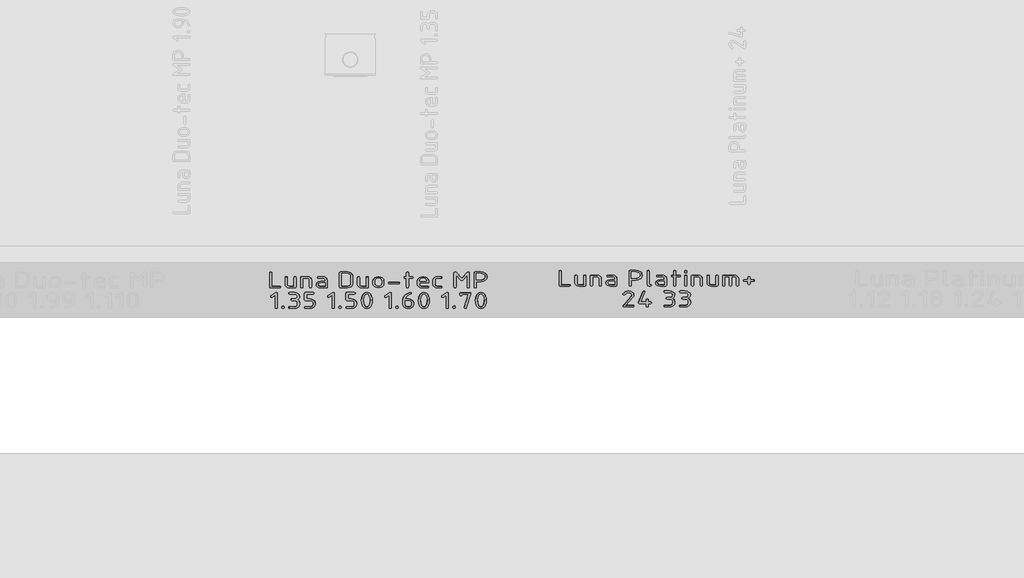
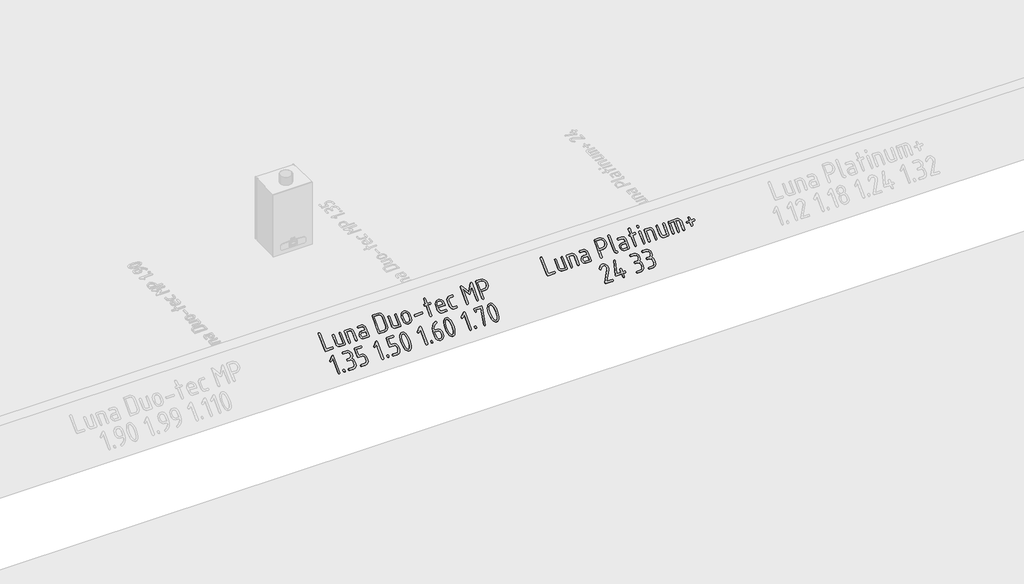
# One storey, part 16 of 37: 2 proxies.
"""IFC4 building model written with IfcOpenShell, lengths in millimetres."""

from ifc_helpers import new_model, si_unit, frame, origin, place, context, project, spatial, polyline, outline, extrude, element, save

model = new_model("IFC4")

# Units and contexts
model_context = context("Model", 3, world=origin())
ifc_project = project(units=[si_unit("LENGTHUNIT", "METRE", prefix="MILLI")], contexts=[model_context])

# Site, building, storey
site = spatial("IfcSite", under=ifc_project)
building = spatial("IfcBuilding", under=site)
storey = spatial("IfcBuildingStorey", under=building, Name="01_Стартовый вид_Площадка", Elevation=0.0)

# Proxies
placement = place(None, origin())
element("IfcBuildingElementProxy", 1, Name="200мм", ObjectType="200мм", at=placement, inside=storey, context=model_context, shape_type="SweptSolid", body=[
    extrude(outline(polyline([(181.0073918, 0.0), (188.5582446, -2.5569025), (191.0751955, -10.2276101), (188.5715617, -17.8983177), (181.0606606, -20.4552203), (10.3874165, -20.4552203), (10.3874165, -90.4504271), (7.830514, -97.9613283), (0.1598064, -100.464962), (-7.5109012, -97.9613283), (-10.0678037, -90.4504271), (-10.0678037, -10.2276101), (-7.5508528, -2.5569025), (0.0, 0.0), (181.0073918, 0.0)])), frame((11525.7291081, -4989.2448204, 178.1825168), z_axis=(0.0, -0.7071067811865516, 0.7071067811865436), x_axis=(0.0, 0.7071067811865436, 0.7071067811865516)), (0.0, 0.0, 1.0), 10.0),
    extrude(outline(polyline([(7.8963814, 0.0), (121.2937942, -38.8098098), (127.5601636, -43.5725011), (127.5101016, -51.4095223), (111.5032112, -98.1796553), (103.8057301, -111.7461768), (91.4765408, -120.9968587), (76.5112491, -124.9537749), (60.9054607, -122.6389988), (-24.1173995, -93.5402659), (-30.3578956, -88.7019763), (-30.230214, -80.6381603), (-25.39024, -74.1871075), (-17.4938586, -74.1871075), (67.1762097, -103.1650988), (82.2515299, -102.3002329), (92.2362967, -91.3041202), (104.7416799, -54.7649538), (1.2728405, -19.3531585), (-4.9676556, -14.5148688), (-4.8399741, -6.4510528), (0.0, 0.0), (7.8963814, 0.0)])), frame((11761.816442, -4899.2872485, 268.1400887), z_axis=(0.0, -0.7071067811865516, 0.7071067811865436), x_axis=(0.32380687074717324, -0.6690101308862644, -0.6690101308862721)), (0.0, 0.0, 1.0), 10.0),
    extrude(outline(polyline([(7.8963814, 0.0), (121.2937942, -38.8098097), (127.5601636, -43.5725011), (127.5101016, -51.4095222), (111.5032112, -98.1796552), (103.8057301, -111.7461767), (91.4765408, -120.9968587), (76.5112491, -124.9537748), (60.9054607, -122.6389988), (-24.1173995, -93.5402659), (-30.3578956, -88.7019762), (-30.230214, -80.6381602), (-25.39024, -74.1871074), (-17.4938586, -74.1871074), (67.1762097, -103.1650987), (82.3596044, -102.4779764), (92.2362968, -91.3041201), (104.7416799, -54.7649537), (1.2728405, -19.3531584), (-4.9676556, -14.5148688), (-4.8399741, -6.4510528), (0.0, 0.0), (7.8963814, 0.0)])), frame((11807.8406876, -4994.602913, 172.8244242), z_axis=(0.0, -0.7071067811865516, 0.7071067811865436), x_axis=(-0.32380687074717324, 0.6690101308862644, 0.6690101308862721)), (0.0, 0.0, 1.0), 10.0),
    extrude(outline(polyline([(50.232481, 0.0), (65.7203854, -2.9630772), (78.6247529, -11.8523086), (87.3342021, -25.0429959), (90.2373519, -40.9104406), (84.9104716, -61.5254672), (70.5678465, -76.7470276), (50.232481, -81.8208811), (10.2276101, -81.8208811), (10.2276101, -100.5714997), (15.9806408, -113.9153347), (30.2034112, -119.3221182), (70.208282, -119.3221182), (77.7191832, -121.8790207), (80.222817, -129.5497283), (77.7191832, -137.2204359), (70.208282, -139.7773385), (30.2034112, -139.7773385), (14.628945, -136.8875059), (1.5714297, -128.2180083), (-7.2778502, -115.3402752), (-10.2276101, -99.8257364), (-10.2276101, -9.9612662), (-7.6707076, -2.4903165), (0.0, 0.0), (50.232481, 0.0)]), holes=[polyline([(10.2276101, -61.3656608), (50.232481, -61.3656608), (57.9231644, -59.8741343), (64.3753481, -55.3995549), (68.7500486, -48.7942233), (70.208282, -40.9104406), (64.2954449, -26.5012294), (57.8232854, -21.9667225), (50.232481, -20.4552203), (10.2276101, -20.4552203), (10.2276101, -61.3656608)])]), frame((12033.7004113, -4996.3638327, 171.0635045), z_axis=(0.0, -0.7071067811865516, 0.7071067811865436), x_axis=(-1.0, 0.0, 0.0)), (0.0, 0.0, 1.0), 10.0),
    extrude(outline(polyline([(7.8835354, 0.0), (54.9822837, -15.8674928), (75.3551696, -27.452775), (89.3245981, -46.3241218), (95.3595377, -69.2676231), (91.9289574, -93.0693684), (80.1317631, -115.1766267), (62.1553062, -129.8058846), (40.1087195, -135.8689668), (16.101136, -132.2776977), (-21.3557464, -119.6585341), (-43.2607096, -184.678028), (-48.0307567, -190.8280684), (-56.082337, -190.701191), (-62.5480184, -185.866963), (-62.5603687, -177.8949509), (-4.7707219, -6.3606027), (0.0, 0.0), (7.8835354, 0.0)]), holes=[polyline([(11.2976149, -22.7350648), (-14.8250741, -100.2738403), (22.3289224, -112.7909621), (37.6683221, -114.832067), (52.4892795, -110.4450816), (64.7838936, -100.6679697), (72.5442635, -86.5386961), (74.9157895, -70.5939297), (71.0438718, -55.3703394), (61.898987, -42.9093), (48.4516115, -35.2521866), (11.2976149, -22.7350648)])]), frame((12155.512846, -4855.914007, 311.5133302), z_axis=(0.0, -0.7071067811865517, 0.7071067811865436), x_axis=(0.947664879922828, 0.22575570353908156, 0.2257557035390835)), (0.0, 0.0, 1.0), 10.0),
    extrude(outline(polyline([(160.9250532, 0.0), (168.4759059, -2.5569026), (170.9928568, -10.2276102), (168.4759059, -17.8983178), (160.9250532, -20.4552203), (0.0, -20.4552203), (-6.365622, -22.9521954), (-10.014535, -30.4431208), (-13.6767652, -37.9340462), (-20.0823387, -40.4310213), (-27.6331915, -37.9407048), (-30.1501424, -30.4697552), (-28.1525623, -18.1713204), (-22.159822, -8.4431053), (-12.6247063, -2.1107763), (0.0, 0.0), (160.9250532, 0.0)])), frame((12313.2550882, -4975.0444625, 192.3828746), z_axis=(0.0, -0.7071067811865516, 0.7071067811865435), x_axis=(0.0, 0.7071067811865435, 0.7071067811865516)), (0.0, 0.0, 1.0), 10.0),
    extrude(outline(polyline([(50.232481, 0.0), (65.7203854, -2.9630772), (78.6247529, -11.8523086), (87.3342021, -25.0429959), (90.2373519, -40.9104406), (84.9104716, -61.5254672), (70.5678464, -76.7470276), (50.232481, -81.8208811), (10.2276101, -81.8208811), (10.2276101, -100.5714997), (15.9806408, -113.9153347), (30.2034111, -119.3221182), (70.208282, -119.3221182), (77.7191832, -121.8790207), (80.2228169, -129.5497283), (77.7191832, -137.2204359), (70.208282, -139.7773385), (30.2034111, -139.7773385), (14.6289449, -136.8875059), (1.5714297, -128.2180083), (-7.2778502, -115.3402752), (-10.2276102, -99.8257364), (-10.2276102, -9.9612662), (-7.6707076, -2.4903165), (0.0, 0.0), (50.232481, 0.0)]), holes=[polyline([(10.2276101, -61.3656608), (50.232481, -61.3656608), (57.9231644, -59.8741343), (64.3753481, -55.3995549), (68.7500486, -48.7942233), (70.208282, -40.9104406), (64.2954449, -26.5012294), (57.8232854, -21.9667225), (50.232481, -20.4552203), (10.2276101, -20.4552203), (10.2276101, -61.3656608)])]), frame((12480.3060537, -4996.3638327, 171.0635045), z_axis=(0.0, -0.7071067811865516, 0.7071067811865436), x_axis=(-1.0, 0.0, 0.0)), (0.0, 0.0, 1.0), 10.0),
    extrude(outline(polyline([(109.3608521, 0.0), (109.3608521, 10.0145349), (111.9177546, 17.5254361), (119.5884622, 20.0290698), (127.2591698, 17.5254361), (129.8160723, 10.0145349), (129.8160723, 0.0), (180.954123, 0.0), (188.6248306, -2.5569026), (191.1817331, -10.2276102), (188.6248306, -17.8983178), (180.954123, -20.4552203), (129.8160723, -20.4552203), (129.8160723, -50.4988251), (127.2591698, -57.9697747), (119.5884622, -60.4600912), (111.9177546, -57.9697747), (109.3608521, -50.4988251), (109.3608521, -20.4552203), (0.0, -20.4552203), (-7.4709496, -17.8983178), (-9.9612662, -10.2276102), (-7.4709496, -2.5569026), (0.0, 0.0), (109.3608521, 0.0)])), frame((12551.8993246, -4989.3201538, 178.1071833), z_axis=(0.0, -0.7071067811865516, 0.7071067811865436), x_axis=(0.0, 0.7071067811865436, 0.7071067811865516)), (0.0, 0.0, 1.0), 10.0),
    extrude(outline(polyline([(-40.4252129, 16.4627758), (-34.1768363, 11.6346677), (-34.2913697, 3.5706542), (-39.1208191, -2.8882816), (-47.0171899, -2.9011565), (-160.6290117, 35.7752084), (-166.9152084, 40.6161914), (-166.8132817, 48.6844966), (-161.9712257, 55.1391407), (-154.0370347, 55.1391406), (-40.4252129, 16.4627758)])), frame((12653.3231251, -4873.6079542, 293.819383), z_axis=(0.0, -0.7071067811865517, 0.7071067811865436), x_axis=(-0.32226379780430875, 0.6693825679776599, 0.6693825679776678)), (0.0, 0.0, 1.0), 10.0),
    extrude(outline(polyline([(7.934191, 0.0), (17.4144495, -3.2273221), (23.7006463, -8.0683051), (23.5987196, -16.1366103), (18.7566636, -22.5912544), (10.8224726, -22.5912544), (1.3422141, -19.3639323), (-4.9439827, -14.5229493), (-4.842056, -6.4546441), (0.0, 0.0), (7.934191, 0.0)])), frame((12653.3231251, -4873.6079542, 293.819383), z_axis=(0.0, -0.7071067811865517, 0.7071067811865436), x_axis=(-0.32226379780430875, 0.6693825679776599, 0.6693825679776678)), (0.0, 0.0, 1.0), 10.0),
    extrude(outline(polyline([(7.8963814, 0.0), (121.2937942, -38.8098098), (127.5601636, -43.5725011), (127.5101016, -51.4095223), (111.5032112, -98.1796553), (103.8057301, -111.7461768), (91.4765408, -120.9968587), (76.5112491, -124.9537749), (60.9054607, -122.6389988), (-24.1173995, -93.5402659), (-30.3578956, -88.7019763), (-30.230214, -80.6381603), (-25.39024, -74.1871075), (-17.4938586, -74.1871074), (67.1762097, -103.1650987), (82.3596044, -102.4779765), (92.2362968, -91.3041201), (104.7416799, -54.7649537), (1.2728405, -19.3531584), (-4.9676556, -14.5148688), (-4.8399741, -6.4510528), (0.0, 0.0), (7.8963814, 0.0)])), frame((12714.6887859, -4994.602913, 172.8244242), z_axis=(0.0, -0.7071067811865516, 0.7071067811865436), x_axis=(-0.32380687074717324, 0.6690101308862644, 0.6690101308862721)), (0.0, 0.0, 1.0), 10.0),
    extrude(outline(polyline([(7.8963814, 0.0), (121.2937942, -38.8098097), (127.5601636, -43.5725011), (127.5101016, -51.4095222), (111.5032112, -98.1796552), (103.8057301, -111.7461767), (91.4765408, -120.9968587), (76.5112491, -124.9537748), (60.9054607, -122.6389988), (-24.1173995, -93.5402659), (-30.3578956, -88.7019762), (-30.230214, -80.6381602), (-25.39024, -74.1871074), (-17.4938586, -74.1871074), (67.1762097, -103.1650987), (82.2515299, -102.3002329), (92.2362968, -91.3041201), (104.7416799, -54.7649537), (1.2728405, -19.3531584), (-4.9676556, -14.5148688), (-4.8399741, -6.4510528), (0.0, 0.0), (7.8963814, 0.0)])), frame((12948.2192172, -4899.2872485, 268.1400887), z_axis=(0.0, -0.7071067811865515, 0.7071067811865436), x_axis=(0.32380687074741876, -0.669010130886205, -0.6690101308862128)), (0.0, 0.0, 1.0), 10.0),
    extrude(outline(polyline([(8.0648268, 0.0), (95.6150095, -28.42341), (109.8146858, -36.0716859), (119.6837275, -48.3906321), (124.1620709, -63.3839268), (122.1896523, -79.0552479), (94.4406404, -164.5281404), (89.7017561, -170.8444538), (81.6369293, -170.8444538), (75.110059, -166.1072188), (74.9850443, -158.2118271), (102.6189151, -73.0935939), (103.610512, -65.2736839), (101.3875032, -57.8242882), (96.4501456, -51.7058984), (89.2986962, -47.8790062), (69.8431001, -41.5626929), (36.073852, -145.5792004), (31.3349676, -151.8955138), (23.2701408, -151.8955138), (16.7432705, -147.1582788), (16.6182558, -139.2628871), (50.3875039, -35.2463795), (11.4763116, -22.6137528), (-22.2929365, -126.6302604), (-27.0318209, -132.9465738), (-35.0966477, -132.9465738), (-41.623518, -128.2093388), (-41.7485327, -120.3139471), (-4.7388843, -6.3163134), (0.0, 0.0), (8.0648268, 0.0)])), frame((12994.2434628, -4899.2872485, 268.1400887), z_axis=(0.0, -0.7071067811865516, 0.7071067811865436), x_axis=(0.9511311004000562, 0.21834563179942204, 0.2183456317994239)), (0.0, 0.0, 1.0), 10.0),
    extrude(outline(polyline([(30.6828304, 0.0), (30.6828304, 29.990336), (33.2397329, 37.5012371), (40.9104405, 40.0048709), (48.5811482, 37.5012371), (51.1380507, 29.990336), (51.1380507, 0.0), (79.2639785, 0.0), (86.2954605, -2.5569025), (88.6392878, -10.2276101), (86.2954605, -17.8983177), (79.2639785, -20.4552203), (51.1380507, -20.4552203), (51.1380507, -50.4455562), (48.5811482, -57.9564574), (40.9104405, -60.4600911), (33.2397329, -57.9564574), (30.6828304, -50.4455562), (30.6828304, -20.4552203), (0.0, -20.4552203), (-7.6707076, -17.8983177), (-10.2276102, -10.2276101), (-7.6707076, -2.5569025), (0.0, 0.0), (30.6828304, 0.0)])), frame((13216.6939832, -4974.6677952, 192.7595419), z_axis=(0.0, -0.7071067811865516, 0.7071067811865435), x_axis=(0.0, 0.7071067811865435, 0.7071067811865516)), (0.0, 0.0, 1.0), 10.0),
    extrude(outline(polyline([(14.6692355, -1e-07), (33.1062034, -6.6022306), (47.3681923, -19.9776427), (55.6930957, -37.6934159), (56.3188068, -57.3167297), (51.840737, -71.1866426), (42.8424616, -84.4831553), (-35.1387131, -175.0883818), (26.2241518, -184.7023202), (33.2487615, -188.3909847), (34.5349086, -196.3567718), (30.8741352, -203.5475071), (23.0579834, -204.9110167), (-55.9874908, -192.526681), (-63.0203458, -188.8906433), (-64.3312285, -181.0827367), (-61.7484405, -175.6102614), (28.9539759, -70.2294251), (36.4734081, -54.5849109), (36.0907364, -42.8313549), (31.0839534, -32.2000358), (22.5293125, -24.1671007), (11.5030671, -20.2086965), (-5.5868318, -23.8935588), (-23.3858749, -40.1921121), (-32.6617347, -43.6454248), (-39.6945896, -40.0093871), (-41.0054723, -32.2014805), (-39.423307, -28.2976301), (-27.0462713, -14.148815), (-13.9051689, -4.7162717), (0.0, 0.0), (14.6692355, -1e-07)])), frame((12131.8182167, -5040.5532294, 126.8741077), z_axis=(0.0, -0.7071067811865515, 0.7071067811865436), x_axis=(0.9879481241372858, 0.10944976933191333, 0.10944976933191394)), (0.0, 0.0, 1.0), 10.0),
    extrude(outline(polyline([(7.917185, 0.0), (10.3934109, -1.1623101), (130.7514683, -83.450499), (134.8406101, -88.4913876), (134.6089903, -94.955685), (129.8713131, -101.2936442), (121.9920295, -101.306278), (119.4147332, -99.9418269), (10.4776363, -25.3349921), (-4.3291842, -69.7554535), (24.1726819, -79.2560755), (30.4516834, -84.0442879), (30.3885144, -92.1088673), (25.600302, -98.5984323), (17.7041733, -98.6616014), (-10.7976928, -89.1609793), (-17.1314408, -108.1622233), (-21.9196532, -114.4412249), (-29.9842326, -114.3780558), (-36.4737975, -109.5898434), (-36.5369666, -101.6937147), (-30.2032186, -82.6924707), (-59.3115073, -72.9897078), (-65.7800159, -68.1383263), (-65.7800159, -60.0526905), (-60.9286345, -53.5841819), (-52.8429987, -53.584182), (-23.73471, -63.2869449), (-4.750311, -6.333748), (0.0, 0.0), (7.917185, 0.0)])), frame((12237.1872379, -5150.4788775, 16.9484597), z_axis=(0.0, -0.7071067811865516, 0.7071067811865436), x_axis=(-0.3162277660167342, 0.6708203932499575, 0.6708203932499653)), (0.0, 0.0, 1.0), 10.0),
    extrude(outline(polyline([(11.7053441, 0.0), (31.3410585, 3.6703332), (39.1938897, 2.537007), (43.0643072, -4.5430923), (42.0127056, -12.5432217), (35.0994797, -16.4366385), (15.4637653, -20.1069717), (4.465269, -24.43209), (-3.8154004, -32.787719), (-8.4170172, -43.7206871), (-8.3783556, -55.7778225), (-4.051707, -66.9657026), (4.2497875, -75.5003523), (15.0165566, -80.3362531), (26.7390288, -80.4278864), (66.0628195, -73.0774324), (73.9156508, -74.2107586), (77.7860684, -81.2908578), (76.7344667, -89.2909873), (69.8212407, -93.184404), (30.49745, -100.5348579), (10.8458725, -100.387662), (-7.2665742, -92.3117814), (-21.242703, -78.0977854), (-28.4853272, -59.5362437), (-27.7768506, -36.0744134), (-16.3140932, -15.6421798), (-34.2831279, -1.2668369), (-43.2938982, 19.6873187), (-46.9348688, 39.1659475), (-46.775927, 58.6097289), (-38.7235342, 76.4129584), (-24.658181, 90.0971196), (-6.4603584, 97.1836959), (32.8634323, 104.5341499), (40.7162636, 103.4008237), (44.5866812, 96.3207245), (43.5350795, 88.320595), (36.6218535, 84.4271783), (-2.7019372, 77.0767244), (-13.7175616, 72.8432393), (-22.0496157, 64.7625103), (-26.7270861, 54.235347), (-26.7789594, 42.6625591), (-23.177139, 23.393378), (-18.9410253, 12.6898455), (-10.7153844, 4.5610007), (0.0, 0.0), (11.7053441, 0.0)])), frame((12524.8920416, -5112.7886041, 54.638733), z_axis=(0.0, -0.7071067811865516, 0.7071067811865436), x_axis=(-0.9829750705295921, 0.12992307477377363, 0.12992307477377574)), (0.0, 0.0, 1.0), 10.0),
    extrude(outline(polyline([(11.7053441, 0.0), (31.3410585, 3.6703332), (39.1938897, 2.537007), (43.0643073, -4.5430923), (42.0127056, -12.5432217), (35.0994797, -16.4366385), (15.4637653, -20.1069717), (4.465269, -24.43209), (-3.8154004, -32.787719), (-8.4170172, -43.7206871), (-8.3783556, -55.7778225), (-4.051707, -66.9657026), (4.2497875, -75.5003523), (15.0165566, -80.3362531), (26.7390288, -80.4278864), (66.0628196, -73.0774324), (73.9156509, -74.2107585), (77.7860684, -81.2908578), (76.7344668, -89.2909873), (69.8212408, -93.184404), (30.49745, -100.5348579), (10.8458725, -100.387662), (-7.2665742, -92.3117814), (-21.2427029, -78.0977854), (-28.4853271, -59.5362437), (-27.7768506, -36.0744134), (-16.3140932, -15.6421798), (-34.2831279, -1.2668369), (-43.2938981, 19.6873188), (-46.9348687, 39.1659475), (-46.7759269, 58.6097289), (-38.7235342, 76.4129584), (-24.658181, 90.0971196), (-6.4603584, 97.1836959), (32.8634324, 104.5341499), (40.7162637, 103.4008238), (44.5866812, 96.3207245), (43.5350796, 88.320595), (36.6218536, 84.4271783), (-2.7019372, 77.0767244), (-13.7175616, 72.8432393), (-22.0496157, 64.7625103), (-26.7270861, 54.235347), (-26.7789594, 42.6625591), (-23.177139, 23.393378), (-18.9410253, 12.6898455), (-10.7153844, 4.5610007), (0.0, 0.0), (11.7053441, 0.0)])), frame((12664.6693801, -5112.7886041, 54.638733), z_axis=(0.0, -0.7071067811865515, 0.7071067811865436), x_axis=(-0.9829750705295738, 0.12992307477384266, 0.12992307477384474)), (0.0, 0.0, 1.0), 10.0),
])
element("IfcBuildingElementProxy", 2, Name="200мм", ObjectType="200мм", at=placement, inside=storey, context=model_context, shape_type="SweptSolid", body=[
    extrude(outline(polyline([(181.0073918, 0.0), (188.5582447, -2.5569025), (191.0751956, -10.2276101), (188.5715618, -17.8983177), (181.0606606, -20.4552202), (10.3874166, -20.4552202), (10.3874166, -90.4504271), (7.830514, -97.9613283), (0.1598064, -100.464962), (-7.5109012, -97.9613283), (-10.0678037, -90.4504271), (-10.0678037, -10.2276101), (-7.5508528, -2.5569025), (0.0, 0.0), (181.0073918, 0.0)])), frame((8927.6559894, -5003.178187, 164.2491502), z_axis=(0.0, -0.7071067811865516, 0.7071067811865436), x_axis=(0.0, 0.7071067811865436, 0.7071067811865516)), (0.0, 0.0, 1.0), 10.0),
    extrude(outline(polyline([(7.8963813, 1e-07), (121.2937942, -38.8098097), (127.5601635, -43.5725011), (127.5101016, -51.4095222), (111.5032111, -98.1796552), (103.8057301, -111.7461767), (91.4765408, -120.9968587), (76.5112491, -124.9537748), (60.9054607, -122.6389988), (-24.1173995, -93.5402659), (-30.3578956, -88.7019762), (-30.230214, -80.6381602), (-25.39024, -74.1871074), (-17.4938586, -74.1871074), (67.1762096, -103.1650987), (82.2515299, -102.3002328), (92.2362967, -91.3041201), (104.7416798, -54.7649537), (1.2728405, -19.3531584), (-4.9676556, -14.5148688), (-4.8399741, -6.4510528), (0.0, 0.0), (7.8963813, 1e-07)])), frame((9163.7433232, -4913.2206151, 254.2067221), z_axis=(0.0, -0.7071067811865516, 0.7071067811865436), x_axis=(0.32380687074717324, -0.6690101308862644, -0.6690101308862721)), (0.0, 0.0, 1.0), 10.0),
    extrude(outline(polyline([(7.8963813, 0.0), (121.2937942, -38.8098098), (127.5601635, -43.5725011), (127.5101015, -51.4095223), (111.5032111, -98.1796553), (103.8057301, -111.7461768), (91.4765408, -120.9968587), (76.511249, -124.9537749), (60.9054607, -122.6389988), (-24.1173995, -93.5402659), (-30.3578956, -88.7019763), (-30.230214, -80.6381603), (-25.39024, -74.1871075), (-17.4938587, -74.1871075), (67.1762096, -103.1650988), (82.3596044, -102.4779765), (92.2362967, -91.3041202), (104.7416798, -54.7649538), (1.2728404, -19.3531585), (-4.9676556, -14.5148688), (-4.8399741, -6.4510528), (0.0, 0.0), (7.8963813, 0.0)])), frame((9209.7675688, -5008.5362795, 158.8910576), z_axis=(0.0, -0.7071067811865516, 0.7071067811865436), x_axis=(-0.32380687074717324, 0.6690101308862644, 0.6690101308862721)), (0.0, 0.0, 1.0), 10.0),
    extrude(outline(polyline([(50.232481, 0.0), (65.7203854, -2.9630771), (78.6247529, -11.8523086), (87.3342022, -25.0429959), (90.2373519, -40.9104405), (84.9104716, -61.5254672), (70.5678465, -76.7470275), (50.232481, -81.820881), (10.2276102, -81.820881), (10.2276102, -100.5714996), (15.9806409, -113.9153347), (30.2034112, -119.3221182), (70.2082821, -119.3221182), (77.7191833, -121.8790207), (80.222817, -129.5497283), (77.7191833, -137.2204359), (70.2082821, -139.7773384), (30.2034112, -139.7773384), (14.628945, -136.8875059), (1.5714297, -128.2180082), (-7.2778502, -115.3402751), (-10.2276101, -99.8257363), (-10.2276101, -9.9612661), (-7.6707076, -2.4903165), (0.0, 0.0), (50.232481, 0.0)]), holes=[polyline([(10.2276102, -61.3656608), (50.232481, -61.3656608), (57.9231644, -59.8741343), (64.3753482, -55.3995548), (68.7500486, -48.7942233), (70.2082821, -40.9104405), (64.295445, -26.5012294), (57.8232854, -21.9667225), (50.232481, -20.4552203), (10.2276102, -20.4552203), (10.2276102, -61.3656608)])]), frame((9435.6272926, -5010.2971992, 157.1301379), z_axis=(0.0, -0.7071067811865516, 0.7071067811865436), x_axis=(-1.0, 0.0, 0.0)), (0.0, 0.0, 1.0), 10.0),
    extrude(outline(polyline([(181.0073918, 0.0), (188.5582447, -2.4903165), (191.0751956, -9.9612661), (191.0751956, -69.6223252), (187.4395998, -88.918949), (176.5328124, -104.9395414), (160.3257792, -115.726474), (140.7894457, -119.3221182), (40.2179462, -119.3221182), (20.8813707, -115.6865224), (4.6343858, -104.779735), (-6.3922563, -88.719191), (-10.0678037, -69.6223252), (-10.0678037, -9.9612661), (-7.5508528, -2.4903165), (0.0, 0.0), (181.0073918, 0.0)]), holes=[polyline([(170.6199753, -20.4552202), (10.3874166, -20.4552202), (10.3874166, -69.4625188), (12.5847546, -80.7621636), (19.176769, -90.2639863), (28.8850083, -96.71617), (40.4310213, -98.8668979), (140.5763705, -98.8668979), (152.1223835, -96.71617), (161.8306228, -90.2639863), (168.4226372, -80.7621636), (170.6199753, -69.4625188), (170.6199753, -20.4552202)])]), frame((9554.9494108, -5003.178187, 164.2491502), z_axis=(0.0, -0.7071067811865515, 0.7071067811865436), x_axis=(0.0, 0.7071067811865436, 0.7071067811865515)), (0.0, 0.0, 1.0), 10.0),
    extrude(outline(polyline([(7.8963813, 0.0), (121.2937942, -38.8098098), (127.5601635, -43.5725011), (127.5101015, -51.4095223), (111.5032111, -98.1796552), (103.8057301, -111.7461767), (91.4765408, -120.9968587), (76.5112491, -124.9537748), (60.9054607, -122.6389988), (-24.1173995, -93.5402659), (-30.3578956, -88.7019763), (-30.230214, -80.6381603), (-25.39024, -74.1871075), (-17.4938586, -74.1871074), (67.1762096, -103.1650987), (82.2515299, -102.3002328), (92.2362967, -91.3041201), (104.7416798, -54.7649537), (1.2728405, -19.3531584), (-4.9676556, -14.5148688), (-4.8399741, -6.4510528), (0.0, 0.0), (7.8963813, 0.0)])), frame((9811.4919649, -4913.2206151, 254.2067221), z_axis=(0.0, -0.7071067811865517, 0.7071067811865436), x_axis=(0.3238068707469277, -0.6690101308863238, -0.6690101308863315)), (0.0, 0.0, 1.0), 10.0),
    extrude(outline(polyline([(19.5277269, 0.0), (58.788553, -7.3971647), (76.977393, -14.5033742), (90.8173496, -28.1486772), (98.6171829, -45.8732873), (98.6856532, -65.2174178), (91.5847544, -83.4140341), (77.9948347, -97.0679287), (60.1996699, -104.6308688), (40.4830361, -104.5546222), (1.2222101, -97.1574575), (-16.96663, -90.051248), (-30.8065866, -76.405945), (-38.6064199, -58.6813348), (-38.6748902, -39.3372043), (-31.5717163, -21.3442893), (-17.856617, -7.6733254), (0.0, 0.0), (19.5277269, 0.0)]), holes=[polyline([(5.5853838, -77.1644064), (44.8985577, -84.5714339), (56.5989581, -84.61445), (67.3060997, -80.1473936), (75.5187711, -72.161262), (79.7357612, -61.6470529), (79.6340604, -50.3191558), (74.8906592, -39.89196), (66.5432132, -31.8348129), (55.6293779, -27.6170622), (16.316204, -20.2100346), (4.5148066, -20.1276623), (-6.1812393, -24.5358276), (-14.3509512, -32.5097259), (-18.5733473, -43.1245526), (-18.4716465, -54.4524498), (-13.7282453, -64.8796457), (-5.3677123, -72.9392585), (5.5853838, -77.1644064)])]), frame((9858.574928, -4988.5729118, 178.8544254), z_axis=(0.0, -0.7071067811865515, 0.7071067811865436), x_axis=(-0.1851531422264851, 0.6948806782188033, 0.6948806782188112)), (0.0, 0.0, 1.0), 10.0),
    extrude(outline(polyline([(7.934191, 0.0), (83.6754056, -25.7842433), (89.9616024, -30.6252263), (89.8596756, -38.6935315), (85.0176197, -45.1481756), (77.0834286, -45.1481756), (1.3422141, -19.3639324), (-4.9439827, -14.5229492), (-4.842056, -6.4546441), (0.0, 0.0), (7.934191, 0.0)])), frame((10091.7924051, -4972.3291337, 195.0982034), z_axis=(0.0, -0.7071067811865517, 0.7071067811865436), x_axis=(-0.9466499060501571, -0.22787491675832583, -0.22787491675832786)), (0.0, 0.0, 1.0), 10.0),
    extrude(outline(polyline([(109.3608521, 0.0), (109.3608521, 10.0145349), (111.9177546, 17.5254361), (119.5884622, 20.0290699), (127.2591698, 17.5254361), (129.8160723, 10.0145349), (129.8160723, 0.0), (180.954123, 0.0), (188.6248306, -2.5569025), (191.1817332, -10.2276101), (188.6248306, -17.8983177), (180.954123, -20.4552202), (129.8160723, -20.4552202), (129.8160723, -50.498825), (127.2591698, -57.9697746), (119.5884622, -60.4600911), (111.9177546, -57.9697746), (109.3608521, -50.498825), (109.3608521, -20.4552202), (0.0, -20.4552202), (-7.4709496, -17.8983177), (-9.9612661, -10.2276101), (-7.4709496, -2.5569025), (0.0, 0.0), (109.3608521, 0.0)])), frame((10154.9692052, -5003.2535204, 164.1738167), z_axis=(0.0, -0.7071067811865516, 0.7071067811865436), x_axis=(0.0, 0.7071067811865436, 0.7071067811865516)), (0.0, 0.0, 1.0), 10.0),
    extrude(outline(polyline([(80.0097417, 0.0), (80.0097417, 20.4552203), (74.0969046, 34.8644314), (67.6247451, 39.3989382), (60.0339407, 40.9104405), (10.0145349, 40.9104405), (2.5036337, 43.4673431), (0.0, 51.1380507), (2.5036337, 58.8087582), (10.0145349, 61.3656608), (60.0339407, 61.3656608), (75.5751139, 58.4758282), (88.6392878, 49.8063306), (97.5085434, 36.9285976), (100.464962, 21.4140587), (100.464962, -28.4988095), (96.7561216, -47.6888957), (85.6296004, -63.8160257), (69.309371, -74.7627647), (50.0194058, -78.4116777), (30.5829514, -74.8693023), (14.4624799, -64.2421762), (3.61562, -48.4479761), (0.0, -29.4043792), (0.0, 0.0), (80.0097417, 0.0)]), holes=[polyline([(50.0194058, -60.4600912), (61.5254672, -58.262753), (71.2203893, -51.6707387), (77.8124036, -41.9758166), (80.0097417, -30.4697552), (80.0097417, -20.4552203), (20.0290698, -20.4552203), (20.0290698, -30.4697552), (22.2264079, -41.9758166), (28.8184223, -51.6707387), (38.5133444, -58.262753), (50.0194058, -60.4600912)])]), frame((10354.3010651, -4966.9051244, 200.5222128), z_axis=(0.0, -0.7071067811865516, 0.7071067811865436), x_axis=(-1.0, 0.0, 0.0)), (0.0, 0.0, 1.0), 10.0),
    extrude(outline(polyline([(15.150878, 0.0), (69.918334, 22.8458531), (80.4980469, 33.6657617), (80.4672849, 48.8903841), (68.9008028, 76.6182523), (68.3843818, 84.4977287), (74.5050909, 89.7492381), (82.5432932, 90.4040175), (87.7793513, 84.493304), (99.3458335, 56.7654358), (102.6619404, 41.3096074), (99.6902547, 25.914741), (91.2197, 12.7713241), (78.0392002, 4.0698443), (22.7801153, -18.9810883), (7.3232334, -22.2254877), (-7.9764678, -18.9976632), (-21.0073017, -10.2781336), (-29.6575818, 2.9525826), (-41.224064, 30.6804508), (-41.740485, 38.5599271), (-35.6197759, 43.8114365), (-27.5815735, 44.4662159), (-22.3455154, 38.5555025), (-10.7790332, 10.8276343), (0.0, 0.0), (15.150878, 0.0)])), frame((10419.9015957, -4930.0105607, 237.4167764), z_axis=(0.0, -0.7071067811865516, 0.7071067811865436), x_axis=(-0.3849898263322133, -0.6526035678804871, -0.6526035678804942)), (0.0, 0.0, 1.0), 10.0),
    extrude(outline(polyline([(10.3655397, 0.0), (16.808038, -5.8210176), (16.0926611, -13.8320345), (-61.1141157, -177.5476095), (-66.6474907, -183.2865022), (-74.6589865, -182.2911476), (-80.5233252, -176.7427848), (-79.6152284, -168.822653), (-16.5183422, -35.0268461), (-79.0036711, -73.1120259), (-89.858128, -74.6483104), (-95.6739444, -65.2504766), (-105.9403866, 7.1437772), (-169.0372729, -126.6520297), (-174.5706478, -132.3909225), (-182.5821437, -131.3955678), (-188.4464823, -125.847205), (-187.5383855, -117.9270732), (-110.3316087, 45.7885018), (-104.6536937, 51.4592308), (-96.208578, 50.2593851), (-89.6719781, 41.6406434), (-78.0740164, -49.2856567), (0.0, 0.0), (10.3655397, 0.0)])), frame((10700.4417455, -4871.1939592, 296.2333779), z_axis=(0.0, -0.7071067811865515, 0.7071067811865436), x_axis=(0.9044690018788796, 0.3016088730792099, 0.30160887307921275)), (0.0, 0.0, 1.0), 10.0),
    extrude(outline(polyline([(7.8835354, 0.0), (54.9822837, -15.8674928), (75.3551696, -27.452775), (89.324598, -46.3241219), (95.3595377, -69.2676232), (91.9289573, -93.0693685), (80.1317631, -115.1766267), (62.1553062, -129.8058847), (40.1087195, -135.8689668), (16.101136, -132.2776977), (-21.3557464, -119.6585341), (-43.2607096, -184.6780281), (-48.0307567, -190.8280684), (-56.0823369, -190.7011911), (-62.5480183, -185.866963), (-62.5603687, -177.894951), (-4.7707219, -6.3606027), (0.0, 0.0), (7.8835354, 0.0)]), holes=[polyline([(11.2976149, -22.7350648), (-14.8250741, -100.2738403), (22.3289224, -112.7909621), (37.6683221, -114.8320671), (52.4892795, -110.4450816), (64.7838936, -100.6679697), (72.5442635, -86.5386962), (74.9157894, -70.5939298), (71.0438718, -55.3703394), (61.898987, -42.9093), (48.4516115, -35.2521866), (11.2976149, -22.7350648)])]), frame((10764.2977228, -4869.8473735, 297.5799636), z_axis=(0.0, -0.7071067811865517, 0.7071067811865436), x_axis=(0.947664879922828, 0.22575570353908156, 0.2257557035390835)), (0.0, 0.0, 1.0), 10.0),
    extrude(outline(polyline([(156.7700866, 0.0), (133.7046949, 23.0121228), (130.8281796, 29.9903359), (133.3318133, 37.5012371), (140.8427146, 40.0048708), (147.8209277, 37.0750867), (187.1333041, -2.0242145), (191.0751955, -10.2276102), (188.5582446, -17.8983178), (181.0073918, -20.4552203), (0.0, -20.4552203), (-7.5508528, -17.8983178), (-10.0678037, -10.2276102), (-7.5508528, -2.5569026), (0.0, 0.0), (156.7700866, 0.0)])), frame((8977.0894383, -5187.9916181, -20.5642809), z_axis=(0.0, -0.7071067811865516, 0.7071067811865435), x_axis=(0.0, 0.7071067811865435, 0.7071067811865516)), (0.0, 0.0, 1.0), 10.0),
    extrude(outline(polyline([(10.2276101, 0.0), (17.8983177, -2.5569026), (20.4552203, -10.2276102), (17.8983177, -17.8983178), (10.2276101, -20.4552203), (0.0, -20.4552203), (-7.6707076, -17.8983178), (-10.2276102, -10.2276102), (-7.6707076, -2.5569026), (0.0, 0.0), (10.2276101, 0.0)])), frame((9038.4550991, -5187.8786179, -20.4512807), z_axis=(0.0, -0.7071067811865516, 0.7071067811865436), x_axis=(0.0, 0.7071067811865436, 0.7071067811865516)), (0.0, 0.0, 1.0), 10.0),
    extrude(outline(polyline([(11.7053441, 0.0), (31.3410585, 3.6703332), (39.1938897, 2.537007), (43.0643072, -4.5430922), (42.0127056, -12.5432217), (35.0994796, -16.4366384), (15.4637652, -20.1069716), (4.465269, -24.43209), (-3.8154004, -32.787719), (-8.4170172, -43.7206871), (-8.3783556, -55.7778225), (-4.051707, -66.9657026), (4.2497875, -75.5003523), (15.0165565, -80.336253), (26.7390288, -80.4278864), (66.0628195, -73.0774324), (73.9156508, -74.2107586), (77.7860684, -81.2908578), (76.7344667, -89.2909872), (69.8212407, -93.1844039), (30.49745, -100.5348579), (10.8458725, -100.387662), (-7.2665742, -92.3117813), (-21.242703, -78.0977853), (-28.4853272, -59.5362437), (-27.7768506, -36.0744134), (-16.3140932, -15.6421798), (-34.2831279, -1.2668369), (-43.2938982, 19.6873188), (-46.9348688, 39.1659475), (-46.775927, 58.6097289), (-38.7235342, 76.4129584), (-24.658181, 90.0971197), (-6.4603584, 97.183696), (32.8634323, 104.5341499), (40.7162636, 103.4008237), (44.5866812, 96.3207245), (43.5350795, 88.3205951), (36.6218535, 84.4271784), (-2.7019372, 77.0767244), (-13.7175616, 72.8432393), (-22.0496157, 64.7625103), (-26.7270861, 54.235347), (-26.7789594, 42.6625592), (-23.1771391, 23.3933781), (-18.9410253, 12.6898456), (-10.7153844, 4.5610007), (0.0, 0.0), (11.7053441, 0.0)])), frame((9159.748163, -5126.7219707, 40.7053665), z_axis=(0.0, -0.7071067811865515, 0.7071067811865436), x_axis=(-0.9829750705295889, 0.12992307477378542, 0.12992307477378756)), (0.0, 0.0, 1.0), 10.0),
    extrude(outline(polyline([(8.0525799, 0.0), (85.9933219, -24.8977371), (92.5546311, -29.5660627), (92.7533732, -37.3466056), (71.8755833, -102.7031653), (67.1544007, -109.0798276), (59.0856113, -109.1305702), (52.5405116, -104.4115019), (52.3903979, -96.4787311), (70.026295, -41.2707055), (11.5707384, -22.5974027), (2.6231142, -50.6073568), (-6.5931996, -67.4452021), (-21.8581101, -79.1913375), (-40.4463132, -84.5354392), (-59.6325046, -82.1671836), (-78.6102634, -76.104844), (-95.6952148, -66.8305638), (-107.6752422, -51.5538486), (-113.1979124, -32.9994739), (-110.9107923, -13.8922156), (-98.8833698, 23.758846), (-94.1865013, 30.0593942), (-86.1258167, 30.0847656), (-79.5645075, 25.4164399), (-79.3657654, 17.6358971), (-91.295931, -19.7107085), (-92.7185758, -31.1883306), (-89.4977376, -42.178083), (-82.4104137, -51.1735429), (-72.2336011, -56.6682869), (-53.5602983, -62.6333698), (-42.1420522, -64.0230671), (-31.1274569, -60.7682242), (-22.0898878, -53.6803717), (-16.6027199, -43.5710398), (-4.6725542, -6.2244343), (0.0, 0.0), (8.0525799, 0.0)])), frame((9242.0484633, -5123.3931733, 44.0341639), z_axis=(0.0, -0.7071067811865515, 0.7071067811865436), x_axis=(-0.3042956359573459, 0.6735741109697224, 0.6735741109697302)), (0.0, 0.0, 1.0), 10.0),
    extrude(outline(polyline([(156.7700866, 0.0), (133.7046949, 23.0121228), (130.8281796, 29.9903359), (133.3318133, 37.5012371), (140.8427146, 40.0048709), (147.8209277, 37.0750867), (187.1333041, -2.0242145), (191.0751955, -10.2276102), (188.5582446, -17.8983178), (181.0073918, -20.4552203), (0.0, -20.4552203), (-7.5508528, -17.8983178), (-10.0678037, -10.2276102), (-7.5508528, -2.5569026), (0.0, 0.0), (156.7700866, 0.0)])), frame((9488.4699449, -5187.9916181, -20.5642809), z_axis=(0.0, -0.7071067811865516, 0.7071067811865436), x_axis=(0.0, 0.7071067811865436, 0.7071067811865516)), (0.0, 0.0, 1.0), 10.0),
    extrude(outline(polyline([(10.2276101, 0.0), (17.8983177, -2.5569025), (20.4552203, -10.2276101), (17.8983177, -17.8983177), (10.2276101, -20.4552203), (0.0, -20.4552203), (-7.6707076, -17.8983177), (-10.2276102, -10.2276101), (-7.6707076, -2.5569025), (0.0, 0.0), (10.2276101, 0.0)])), frame((9549.8356057, -5187.8786179, -20.4512807), z_axis=(0.0, -0.7071067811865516, 0.7071067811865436), x_axis=(0.0, 0.7071067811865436, 0.7071067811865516)), (0.0, 0.0, 1.0), 10.0),
    extrude(outline(polyline([(8.0525799, 0.0), (85.9933219, -24.8977371), (92.5546311, -29.5660627), (92.7533732, -37.3466056), (71.8755833, -102.7031653), (67.1544007, -109.0798276), (59.0856113, -109.1305702), (52.5405116, -104.4115019), (52.3903979, -96.4787311), (70.026295, -41.2707055), (11.5707384, -22.5974027), (2.6231142, -50.6073568), (-6.5931996, -67.4452021), (-21.8581101, -79.1913375), (-40.4463133, -84.5354393), (-59.6325046, -82.1671836), (-78.6102634, -76.104844), (-95.6952149, -66.8305639), (-107.6752422, -51.5538486), (-113.1979124, -32.999474), (-110.9107923, -13.8922156), (-98.8833698, 23.758846), (-94.1865013, 30.0593942), (-86.1258167, 30.0847656), (-79.5645075, 25.4164399), (-79.3657654, 17.6358971), (-91.2959311, -19.7107086), (-92.7185758, -31.1883306), (-89.4977376, -42.178083), (-82.4104137, -51.1735429), (-72.2336011, -56.6682869), (-53.5602983, -62.6333698), (-42.1420522, -64.0230671), (-31.1274569, -60.7682242), (-22.0898878, -53.6803717), (-16.6027199, -43.5710399), (-4.6725542, -6.2244343), (0.0, 0.0), (8.0525799, 0.0)])), frame((9613.6516314, -5123.3931733, 44.0341639), z_axis=(0.0, -0.7071067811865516, 0.7071067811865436), x_axis=(-0.3042956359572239, 0.6735741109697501, 0.6735741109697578)), (0.0, 0.0, 1.0), 10.0),
    extrude(outline(polyline([(33.5896076, 0.0), (66.8986549, -4.3323324), (95.063235, -12.6820124), (111.3579665, -21.0737201), (122.7383843, -31.0621998), (129.2044885, -42.6474518), (130.756279, -55.8294759), (127.5272211, -68.701894), (119.65078, -79.3583279), (107.1269555, -87.7987777), (89.9557478, -94.0232434), (60.9096188, -98.6679788), (27.200407, -98.6602332), (-6.2282447, -94.3201553), (-34.4326928, -85.9678934), (-50.6576551, -77.580704), (-61.9882378, -67.5954515), (-68.4244409, -56.012136), (-69.9662644, -42.8307574), (-66.7272396, -29.9589847), (-58.8208973, -19.3044871), (-46.2472378, -10.8672646), (-29.0062609, -4.6473172), (0.0, 0.0), (33.5896076, 0.0)]), holes=[polyline([(32.267704, -20.4124621), (-14.8413307, -22.4862152), (-40.3558734, -30.709274), (-46.9944147, -36.7784265), (-49.5538025, -44.152661), (-47.9524235, -51.7262833), (-42.1189924, -58.5530721), (-17.7559727, -69.9661483), (28.5223105, -78.2477712), (75.6313453, -76.1740181), (101.145888, -67.9509592), (107.7844292, -61.8818068), (110.343817, -54.5075724), (108.7569234, -46.8648262), (102.9566205, -39.9901388), (78.715787, -28.5449399), (32.267704, -20.4124621)])]), frame((9847.6747992, -5100.2940501, 67.1332871), z_axis=(0.0, -0.7071067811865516, 0.7071067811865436), x_axis=(0.06462426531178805, -0.7056286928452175, -0.7056286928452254)), (0.0, 0.0, 1.0), 10.0),
    extrude(outline(polyline([(156.7700866, 0.0), (133.7046949, 23.0121228), (130.8281796, 29.990336), (133.3318133, 37.5012371), (140.8427146, 40.0048709), (147.8209277, 37.0750867), (187.1333041, -2.0242145), (191.0751955, -10.2276101), (188.5582446, -17.8983177), (181.0073918, -20.4552203), (0.0, -20.4552203), (-7.5508528, -17.8983177), (-10.0678037, -10.2276101), (-7.5508528, -2.5569025), (0.0, 0.0), (156.7700866, 0.0)])), frame((9999.8504515, -5187.9916181, -20.5642809), z_axis=(0.0, -0.7071067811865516, 0.7071067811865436), x_axis=(0.0, 0.7071067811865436, 0.7071067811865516)), (0.0, 0.0, 1.0), 10.0),
    extrude(outline(polyline([(10.2276101, 0.0), (17.8983177, -2.5569025), (20.4552203, -10.2276101), (17.8983177, -17.8983177), (10.2276101, -20.4552203), (0.0, -20.4552203), (-7.6707076, -17.8983177), (-10.2276102, -10.2276101), (-7.6707076, -2.5569025), (0.0, 0.0), (10.2276101, 0.0)])), frame((10061.2161123, -5187.8786179, -20.4512807), z_axis=(0.0, -0.7071067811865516, 0.7071067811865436), x_axis=(0.0, 0.7071067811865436, 0.7071067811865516)), (0.0, 0.0, 1.0), 10.0),
    extrude(outline(polyline([(9.1860502, 0.0), (15.6673773, -4.3091465), (16.1276374, -12.3485622), (13.4402127, -17.8723011), (9.1767832, -19.6898652), (-13.0044329, -23.9621755), (-34.5080781, -36.6048871), (-48.7107317, -50.9074697), (-57.8500608, -67.2288643), (-29.8387548, -74.4413562), (-12.0467675, -82.7560785), (0.6792698, -97.2334981), (7.0290057, -115.4322287), (5.6920891, -134.910884), (0.724369, -154.2041224), (-7.5637878, -171.8929373), (-22.0677727, -184.722147), (-40.2418687, -191.2432448), (-59.5403583, -190.0077246), (-77.1274681, -181.7251278), (-89.8579073, -167.1846927), (-96.282783, -148.8772296), (-94.9532028, -129.2935485), (-79.8242371, -70.5368679), (-66.4826406, -40.8858467), (-43.486239, -18.06629), (-21.7672136, -6.0290984), (0.0, 0.0), (9.1860502, 0.0)]), holes=[polyline([(-62.9506076, -87.0379646), (-75.1706677, -134.4972677), (-75.9672034, -146.0291385), (-72.2202152, -156.7919271), (-64.7657391, -165.332725), (-54.4398115, -170.1986242), (-43.0446288, -170.9118342), (-32.3823869, -166.9945651), (-23.9001253, -159.3668738), (-19.0448833, -148.948817), (-14.1568592, -129.9650958), (-13.3796684, -118.428244), (-17.1846912, -107.6505124), (-24.658512, -99.1047334), (-34.8877154, -94.2637393), (-62.9506076, -87.0379646)])]), frame((10182.296101, -5054.5007211, 112.9266161), z_axis=(0.0, -0.7071067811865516, 0.7071067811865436), x_axis=(0.9684129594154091, 0.1763183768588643, 0.17631837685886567)), (0.0, 0.0, 1.0), 10.0),
    extrude(outline(polyline([(33.5896076, 0.0), (66.8986549, -4.3323324), (95.063235, -12.6820125), (111.3579665, -21.0737201), (122.7383843, -31.0621998), (129.2044885, -42.6474518), (130.756279, -55.8294759), (127.5272211, -68.7018941), (119.65078, -79.3583279), (107.1269555, -87.7987777), (89.9557478, -94.0232434), (60.9096188, -98.6679788), (27.200407, -98.6602332), (-6.2282447, -94.3201553), (-34.4326928, -85.9678934), (-50.6576551, -77.580704), (-61.9882378, -67.5954515), (-68.4244409, -56.0121361), (-69.9662644, -42.8307574), (-66.7272396, -29.9589847), (-58.8208973, -19.3044871), (-46.2472378, -10.8672646), (-29.0062609, -4.6473173), (0.0, 0.0), (33.5896076, 0.0)]), holes=[polyline([(32.267704, -20.4124621), (-14.8413307, -22.4862152), (-40.3558734, -30.709274), (-46.9944147, -36.7784265), (-49.5538025, -44.152661), (-47.9524236, -51.7262834), (-42.1189924, -58.5530721), (-17.7559727, -69.9661483), (28.5223105, -78.2477712), (75.6313453, -76.1740181), (101.145888, -67.9509592), (107.7844292, -61.8818068), (110.343817, -54.5075724), (108.7569234, -46.8648262), (102.9566205, -39.9901388), (78.715787, -28.5449399), (32.267704, -20.4124621)])]), frame((10359.0553058, -5100.2940501, 67.1332871), z_axis=(0.0, -0.7071067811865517, 0.7071067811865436), x_axis=(0.06462426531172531, -0.7056286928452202, -0.7056286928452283)), (0.0, 0.0, 1.0), 10.0),
    extrude(outline(polyline([(156.7700866, 0.0), (133.7046949, 23.0121228), (130.8281796, 29.990336), (133.3318133, 37.5012372), (140.8427146, 40.0048709), (147.8209277, 37.0750867), (187.1333041, -2.0242145), (191.0751955, -10.2276101), (188.5582446, -17.8983177), (181.0073918, -20.4552203), (0.0, -20.4552203), (-7.5508528, -17.8983177), (-10.0678037, -10.2276101), (-7.5508528, -2.5569025), (0.0, 0.0), (156.7700866, 0.0)])), frame((10511.2309581, -5187.9916181, -20.5642809), z_axis=(0.0, -0.7071067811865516, 0.7071067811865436), x_axis=(0.0, 0.7071067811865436, 0.7071067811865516)), (0.0, 0.0, 1.0), 10.0),
    extrude(outline(polyline([(10.2276101, 0.0), (17.8983177, -2.5569025), (20.4552203, -10.2276101), (17.8983177, -17.8983177), (10.2276101, -20.4552202), (0.0, -20.4552202), (-7.6707076, -17.8983177), (-10.2276102, -10.2276101), (-7.6707076, -2.5569025), (0.0, 0.0), (10.2276101, 0.0)])), frame((10572.5966189, -5187.8786179, -20.4512807), z_axis=(0.0, -0.7071067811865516, 0.7071067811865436), x_axis=(0.0, 0.7071067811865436, 0.7071067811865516)), (0.0, 0.0, 1.0), 10.0),
    extrude(outline(polyline([(171.8379334, 0.0), (159.3078445, 56.3675001), (148.4919404, 53.9632026), (140.6167267, 54.7773446), (136.6122668, 61.2540036), (137.5260691, 69.2332246), (144.3479454, 73.3417083), (164.7548828, 77.7688853), (172.6300965, 76.9547433), (176.7039112, 70.1660871), (194.0657134, -7.9372202), (193.312232, -15.7170959), (186.7749124, -19.8168938), (184.3655784, -20.0250571), (-0.0737637, -20.0432379), (-6.5204887, -18.1066596), (-9.7867789, -12.4345115), (-9.0116448, -4.4451886), (-2.2706575, -0.3410437), (0.0, 0.0), (171.8379334, 0.0)])), frame((10674.7129138, -5186.1082815, -18.6809443), z_axis=(0.0, -0.7071067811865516, 0.7071067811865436), x_axis=(0.21699610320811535, 0.6902581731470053, 0.690258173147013)), (0.0, 0.0, 1.0), 10.0),
    extrude(outline(polyline([(33.5896076, 0.0), (66.8986549, -4.3323324), (95.063235, -12.6820125), (111.3579665, -21.0737202), (122.7383843, -31.0621998), (129.2044885, -42.6474518), (130.756279, -55.8294759), (127.5272211, -68.7018941), (119.65078, -79.3583279), (107.1269555, -87.7987777), (89.9557478, -94.0232434), (60.9096188, -98.6679788), (27.2004069, -98.6602333), (-6.2282447, -94.3201553), (-34.4326928, -85.9678934), (-50.6576551, -77.580704), (-61.9882378, -67.5954515), (-68.4244409, -56.0121361), (-69.9662644, -42.8307574), (-66.7272396, -29.9589847), (-58.8208973, -19.3044871), (-46.2472378, -10.8672647), (-29.0062609, -4.6473173), (0.0, 0.0), (33.5896076, 0.0)]), holes=[polyline([(32.267704, -20.4124621), (-14.8413307, -22.4862153), (-40.3558734, -30.7092741), (-46.9944147, -36.7784265), (-49.5538025, -44.152661), (-47.9524236, -51.7262834), (-42.1189924, -58.5530721), (-17.7559727, -69.9661483), (28.5223105, -78.2477712), (75.6313453, -76.1740181), (101.145888, -67.9509592), (107.7844292, -61.8818068), (110.343817, -54.5075724), (108.7569234, -46.8648262), (102.9566205, -39.9901389), (78.715787, -28.54494), (32.267704, -20.4124621)])]), frame((10870.4358124, -5100.2940501, 67.1332871), z_axis=(0.0, -0.7071067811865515, 0.7071067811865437), x_axis=(0.0646242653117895, -0.7056286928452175, -0.7056286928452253)), (0.0, 0.0, 1.0), 10.0),
])

save(model, "model.ifc")
